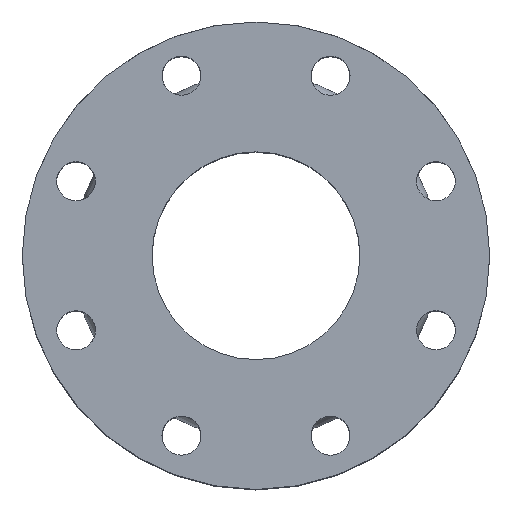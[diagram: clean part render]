
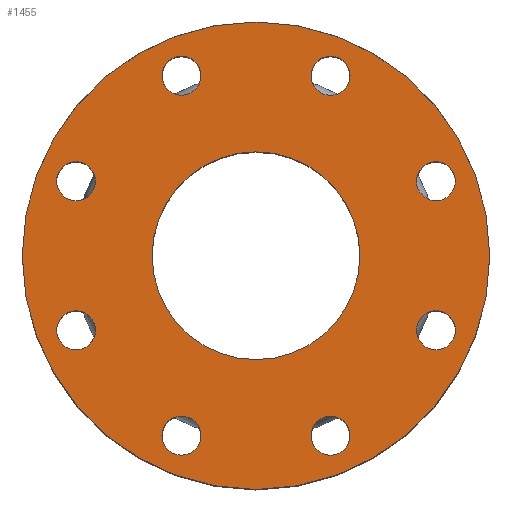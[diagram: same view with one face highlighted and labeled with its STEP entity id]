
A CAD part, top view. The second image highlights one B-rep face of the part: STEP entity #1455.
In plain terms, the highlighted planar face has unit normal (0, 0, 1).
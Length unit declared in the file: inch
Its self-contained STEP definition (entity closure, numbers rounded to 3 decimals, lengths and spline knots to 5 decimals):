
#40=FACE_BOUND('',#257,.T.);
#41=FACE_BOUND('',#258,.T.);
#42=FACE_BOUND('',#259,.T.);
#43=FACE_BOUND('',#260,.T.);
#44=FACE_BOUND('',#261,.T.);
#45=FACE_BOUND('',#262,.T.);
#46=FACE_BOUND('',#263,.T.);
#47=FACE_BOUND('',#264,.T.);
#48=FACE_BOUND('',#265,.T.);
#96=PLANE('',#1625);
#156=FACE_OUTER_BOUND('',#256,.T.);
#256=EDGE_LOOP('',(#1076));
#257=EDGE_LOOP('',(#1077));
#258=EDGE_LOOP('',(#1078));
#259=EDGE_LOOP('',(#1079));
#260=EDGE_LOOP('',(#1080));
#261=EDGE_LOOP('',(#1081));
#262=EDGE_LOOP('',(#1082));
#263=EDGE_LOOP('',(#1083));
#264=EDGE_LOOP('',(#1084));
#265=EDGE_LOOP('',(#1085));
#540=CIRCLE('',#1598,0.375);
#542=CIRCLE('',#1601,0.375);
#544=CIRCLE('',#1604,0.375);
#546=CIRCLE('',#1607,0.375);
#548=CIRCLE('',#1610,0.375);
#550=CIRCLE('',#1613,0.375);
#552=CIRCLE('',#1616,0.375);
#554=CIRCLE('',#1619,0.375);
#555=CIRCLE('',#1621,2.);
#557=CIRCLE('',#1624,4.5);
#648=VERTEX_POINT('',#2305);
#650=VERTEX_POINT('',#2311);
#652=VERTEX_POINT('',#2317);
#654=VERTEX_POINT('',#2323);
#656=VERTEX_POINT('',#2329);
#658=VERTEX_POINT('',#2335);
#660=VERTEX_POINT('',#2341);
#662=VERTEX_POINT('',#2347);
#663=VERTEX_POINT('',#2351);
#665=VERTEX_POINT('',#2357);
#793=EDGE_CURVE('',#648,#648,#540,.T.);
#796=EDGE_CURVE('',#650,#650,#542,.T.);
#799=EDGE_CURVE('',#652,#652,#544,.T.);
#802=EDGE_CURVE('',#654,#654,#546,.T.);
#805=EDGE_CURVE('',#656,#656,#548,.T.);
#808=EDGE_CURVE('',#658,#658,#550,.T.);
#811=EDGE_CURVE('',#660,#660,#552,.T.);
#814=EDGE_CURVE('',#662,#662,#554,.T.);
#815=EDGE_CURVE('',#663,#663,#555,.T.);
#819=EDGE_CURVE('',#665,#665,#557,.T.);
#1076=ORIENTED_EDGE('',*,*,#819,.F.);
#1077=ORIENTED_EDGE('',*,*,#793,.T.);
#1078=ORIENTED_EDGE('',*,*,#796,.T.);
#1079=ORIENTED_EDGE('',*,*,#799,.T.);
#1080=ORIENTED_EDGE('',*,*,#802,.T.);
#1081=ORIENTED_EDGE('',*,*,#805,.T.);
#1082=ORIENTED_EDGE('',*,*,#808,.T.);
#1083=ORIENTED_EDGE('',*,*,#811,.T.);
#1084=ORIENTED_EDGE('',*,*,#814,.T.);
#1085=ORIENTED_EDGE('',*,*,#815,.T.);
#1455=ADVANCED_FACE('',(#156,#40,#41,#42,#43,#44,#45,#46,#47,#48),#96,.F.);
#1598=AXIS2_PLACEMENT_3D('',#2307,#1882,#1883);
#1601=AXIS2_PLACEMENT_3D('',#2313,#1889,#1890);
#1604=AXIS2_PLACEMENT_3D('',#2319,#1896,#1897);
#1607=AXIS2_PLACEMENT_3D('',#2325,#1903,#1904);
#1610=AXIS2_PLACEMENT_3D('',#2331,#1910,#1911);
#1613=AXIS2_PLACEMENT_3D('',#2337,#1917,#1918);
#1616=AXIS2_PLACEMENT_3D('',#2343,#1924,#1925);
#1619=AXIS2_PLACEMENT_3D('',#2349,#1931,#1932);
#1621=AXIS2_PLACEMENT_3D('',#2352,#1935,#1936);
#1624=AXIS2_PLACEMENT_3D('',#2359,#1943,#1944);
#1625=AXIS2_PLACEMENT_3D('',#2360,#1945,#1946);
#1882=DIRECTION('center_axis',(0.,0.,
-1.));
#1883=DIRECTION('ref_axis',(0.,-1.,0.));
#1889=DIRECTION('center_axis',(0.,0.,
-1.));
#1890=DIRECTION('ref_axis',(-0.707,-0.707,0.));
#1896=DIRECTION('center_axis',(0.,0.,
-1.));
#1897=DIRECTION('ref_axis',(-1.,0.,0.));
#1903=DIRECTION('center_axis',(0.,0.,
-1.));
#1904=DIRECTION('ref_axis',(-0.707,0.707,0.));
#1910=DIRECTION('center_axis',(0.,0.,
-1.));
#1911=DIRECTION('ref_axis',(0.,1.,0.));
#1917=DIRECTION('center_axis',(0.,0.,
-1.));
#1918=DIRECTION('ref_axis',(0.707,0.707,0.));
#1924=DIRECTION('center_axis',(0.,0.,
-1.));
#1925=DIRECTION('ref_axis',(0.707,-0.707,0.));
#1931=DIRECTION('center_axis',(0.,0.,
-1.));
#1932=DIRECTION('ref_axis',(1.,0.,0.));
#1935=DIRECTION('center_axis',(0.,0.,
-1.));
#1936=DIRECTION('ref_axis',(-1.,0.,0.));
#1943=DIRECTION('center_axis',(0.,0.,
-1.));
#1944=DIRECTION('ref_axis',(1.,0.,0.));
#1945=DIRECTION('center_axis',(0.,0.,
-1.));
#1946=DIRECTION('ref_axis',(1.,0.,0.));
#2305=CARTESIAN_POINT('',(-3.46455,1.81006,3.));
#2307=CARTESIAN_POINT('Origin',(-3.46455,1.43506,3.));
#2311=CARTESIAN_POINT('',(-1.1699,3.72971,3.));
#2313=CARTESIAN_POINT('Origin',(-1.43506,3.46455,3.));
#2317=CARTESIAN_POINT('',(1.81006,3.46455,3.));
#2319=CARTESIAN_POINT('Origin',(1.43506,3.46455,3.));
#2323=CARTESIAN_POINT('',(3.72971,1.1699,3.));
#2325=CARTESIAN_POINT('Origin',(3.46455,1.43506,3.));
#2329=CARTESIAN_POINT('',(3.46455,-1.81006,3.));
#2331=CARTESIAN_POINT('Origin',(3.46455,-1.43506,3.));
#2335=CARTESIAN_POINT('',(1.1699,-3.72971,3.));
#2337=CARTESIAN_POINT('Origin',(1.43506,-3.46455,3.));
#2341=CARTESIAN_POINT('',(-3.72971,-1.1699,3.));
#2343=CARTESIAN_POINT('Origin',(-3.46455,-1.43506,3.));
#2347=CARTESIAN_POINT('',(-1.81006,-3.46455,3.));
#2349=CARTESIAN_POINT('Origin',(-1.43506,-3.46455,3.));
#2351=CARTESIAN_POINT('',(2.,0.,3.));
#2352=CARTESIAN_POINT('Origin',(0.,0.,
3.));
#2357=CARTESIAN_POINT('',(-4.5,0.,3.));
#2359=CARTESIAN_POINT('Origin',(0.,0.,
3.));
#2360=CARTESIAN_POINT('Origin',(0.,0.,
3.));
